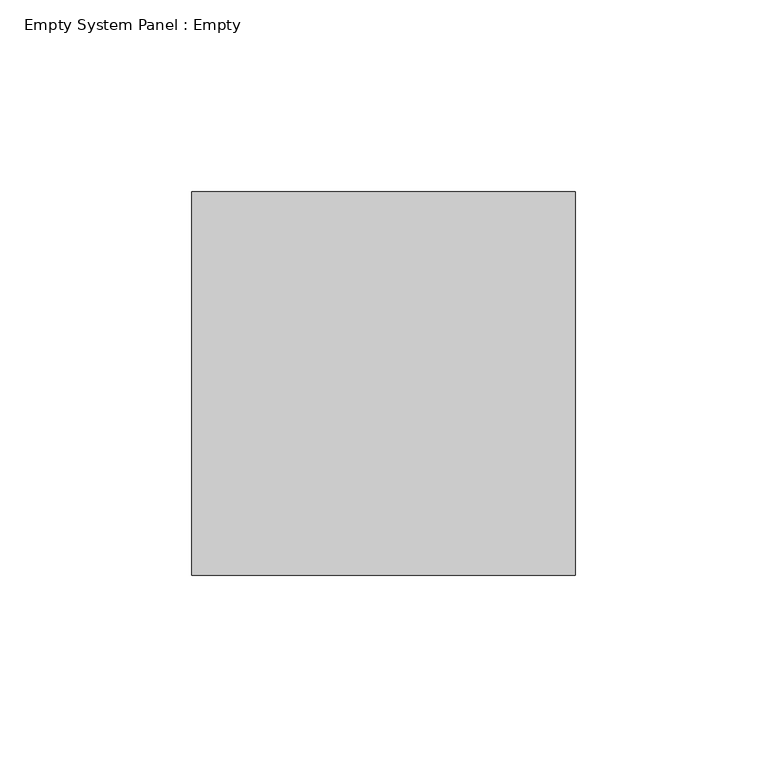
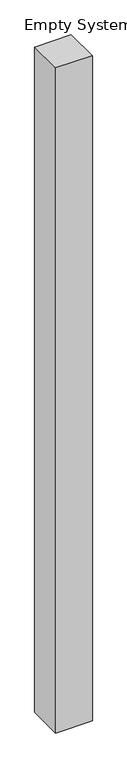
"""IFC4 building model written with IfcOpenShell, lengths in millimetres: plate geometry, Empty System Panel : Empty."""

from ifc_helpers import new_model, si_unit, origin, origin_with_axes, place, context, project, spatial, polyline, outline, extrude, source, transform, mapped, element, save


def empty_system_panel_empty_5411477d(model_context):
    return source(origin(), model_context, "Body", "SweptSolid", [
        extrude(outline(polyline([(50.0, -50.0), (-50.0, -50.0), (-50.0, 50.0), (50.0, 50.0), (50.0, -50.0)])), origin_with_axes(), (0.0, 0.0, 1.0), 1925.0),
    ])


if __name__ == "__main__":
    model = new_model("IFC4")
    model_context = context("Model", 3, world=origin())
    ifc_project = project(units=[si_unit("LENGTHUNIT", "METRE", prefix="MILLI")], contexts=[model_context])
    site = spatial("IfcSite", under=ifc_project)
    building = spatial("IfcBuilding", under=site)
    placement = place(None, origin())
    empty_system_panel_empty_shape = empty_system_panel_empty_5411477d(model_context)
    element("IfcPlate", 1, ObjectType="Empty System Panel : Empty", at=placement, inside=building, context=model_context, shape_type="MappedRepresentation", body=[
        mapped(empty_system_panel_empty_shape, transform((0.0, 0.0, 0.0), x_axis=(1.0, 0.0, 0.0), y_axis=(0.0, 1.0, 0.0), z_axis=(0.0, 0.0, 1.0))),
    ])
    save(model, "model.ifc")
